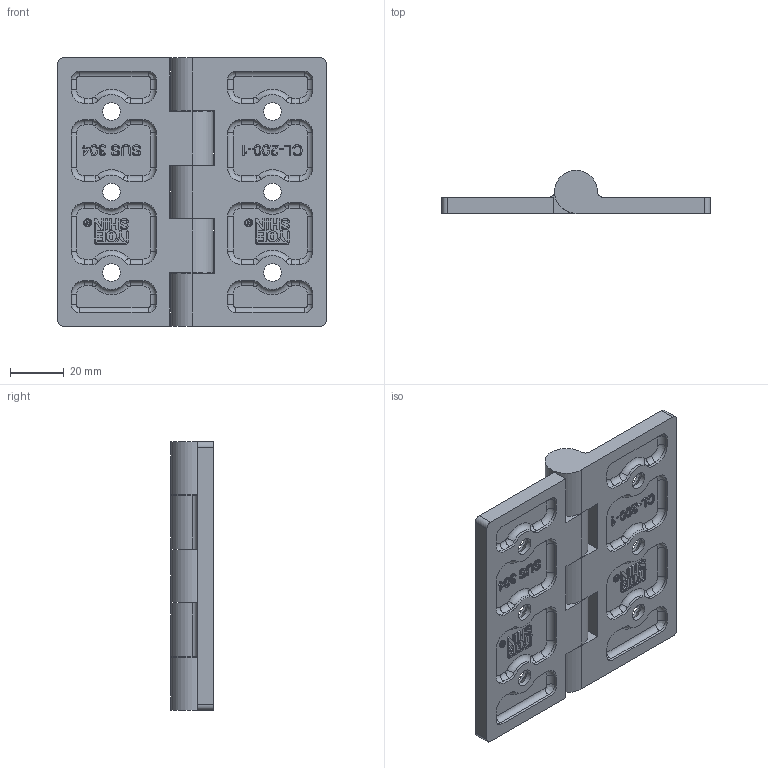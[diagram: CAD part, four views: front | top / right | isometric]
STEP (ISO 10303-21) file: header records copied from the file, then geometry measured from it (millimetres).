
FILE_DESCRIPTION(/* description */ (''),/* implementation_level */ '2;1');
FILE_NAME(/* name */ 'cl-200-1-2g.stp',/* time_stamp */ '2019-09-24T15:37:03+08:00',/* author */ (''),/* organization */ (''),/* preprocessor_version */ 'ST-DEVELOPER v16',/* originating_system */ 'SIEMENS PLM Software NX 10.0',/* authorisation */ '');
FILE_SCHEMA (('AUTOMOTIVE_DESIGN { 1 0 10303 214 3 1 1 1 }'));
Length unit declared in the file: millimetre
Products named in the file (1): Admi19102195b6r8
Bounding box: 100 x 16 x 100 mm (x, y, z)
Volume: 52817.3 mm3; surface area: 30649 mm2
Topology: 2 solids, 2 shells, 752 faces, 1984 edges, 1288 vertices
Faces by surface type: plane 294, bspline 255, cylinder 161, torus 36, cone 6
Full cylindrical faces by diameter (mm): 2.4 x2, 3 x2, 6.5 x6, 8 x5, 12.5 x6
Entity records: 25440 total; most frequent: CARTESIAN_POINT 8295, ORIENTED_EDGE 3882, DIRECTION 2903, EDGE_CURVE 1941, VERTEX_POINT 1272, LINE 1079, VECTOR 1079, AXIS2_PLACEMENT_3D 912
